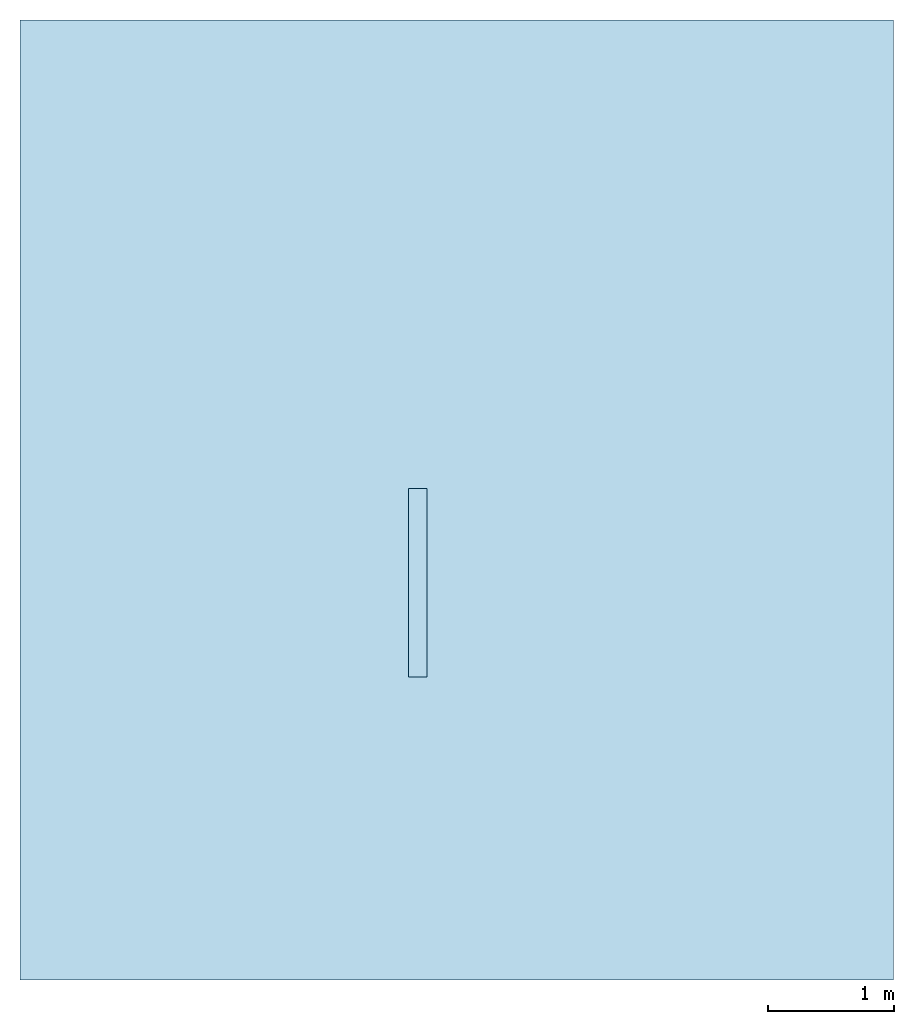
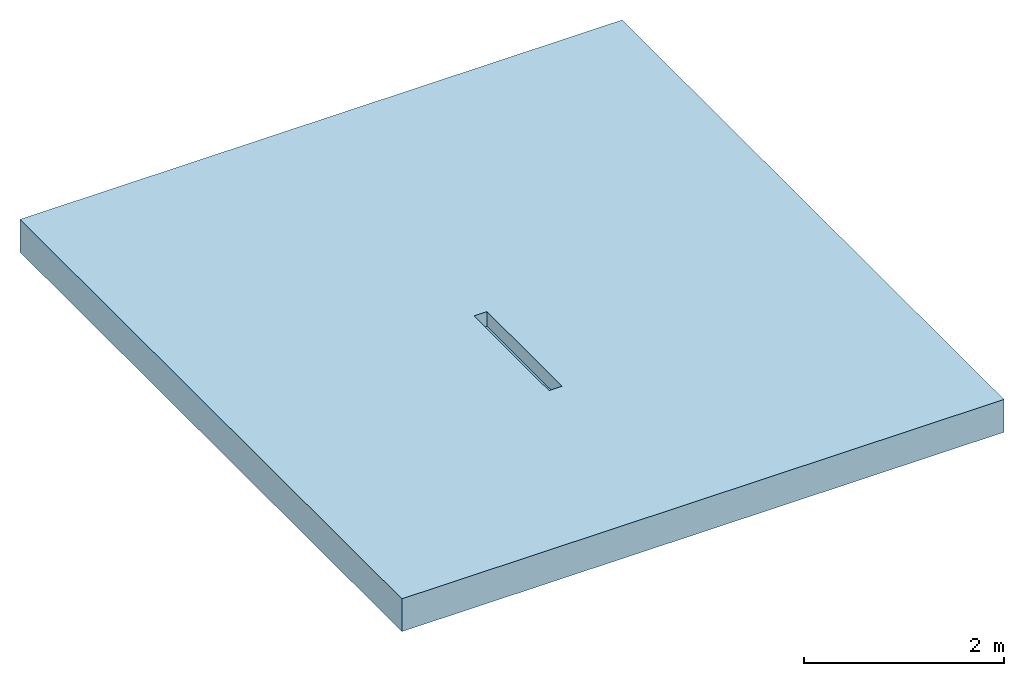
# One storey: 1 slab, 2 openings.
"""IFC2X3 building model written with IfcOpenShell, lengths in millimetres."""

from ifc_helpers import new_model, entity, si_unit, converted_unit, direction, frame, frame_2d, origin, origin_2d_with_axis, place, context, subcontext, project, spatial, rectangle, circle, extrude, material, layer, layer_set, layer_usage, element, save


model = new_model("IFC2X3")

# Units and contexts
model_context = context("Model", 3, precision=1e-06, world=origin(), true_north=direction((2.0, 6.12303176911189e-17, 1.0)))
context_of_model = context(None, 3, precision=1e-06, world=origin(), true_north=direction((2.0, 6.12303176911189e-17, 1.0)))
body_context = subcontext(model_context, "Body", "Model", "MODEL_VIEW")
ifc_project = project(units=[si_unit("LENGTHUNIT", "METRE", prefix="MILLI"), si_unit("AREAUNIT", "SQUARE_METRE", prefix="MILLI"), si_unit("VOLUMEUNIT", "CUBIC_METRE", prefix="MILLI"), converted_unit("PLANEANGLEUNIT", "DEGREE", entity("IfcRatioMeasure", 0.0174532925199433), si_unit("PLANEANGLEUNIT", "RADIAN"), dimensions=[0, 0, 0, 0, 0, 0, 0]), si_unit("TIMEUNIT", "SECOND")], contexts=[model_context, context_of_model])

# Site, building, storey
site_placement = place(None, origin())
site = spatial("IfcSite", under=ifc_project, at=site_placement, Name="Default", CompositionType="ELEMENT")
building_placement = place(site_placement, origin())
building = spatial("IfcBuilding", under=site, at=building_placement, CompositionType="ELEMENT")
storey_placement = place(building_placement, origin())
storey = spatial("IfcBuildingStorey", under=building, at=storey_placement, Name="Level 1", CompositionType="ELEMENT", Elevation=0.0)

# Slab, openings
ifc_material = material(Name="Default Floor")
ifc_layer = layer(ifc_material, 400.0)
ifc_layer_set = layer_set([ifc_layer], Name="Floor:Generic Floor - 400mm")
ifc_layer_usage = layer_usage(ifc_layer_set, "AXIS3", "POSITIVE", 0.0)
slab_placement = place(storey_placement, frame((-7426.51252910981, -9304.1683846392, -400.0)))
slab = element("IfcSlab", 1, at=slab_placement, inside=storey, material=ifc_layer_usage, Name="Floor:Generic Floor - 400mm", ObjectType="Floor:Generic Floor - 400mm", PredefinedType="FLOOR", context=body_context, shape_type="SweptSolid", body=[
    extrude(rectangle(XDim=7632.29114211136, YDim=6946.28644627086, at=frame_2d((0.0, 0.0), x_axis=(0.0, -1.0))), frame((3473.14322313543, 3816.14557105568, 400.0), z_axis=(0.0, 0.0, -1.0), x_axis=(-1.0, 0.0, 0.0)), (0.0, 0.0, 1.0), 400.0),
])
opening_1_placement = place(slab_placement, origin())
element("IfcOpeningElement", 2, at=opening_1_placement, cuts=slab, ObjectType="Recess", context=body_context, shape_type="SweptSolid", body=[
    extrude(circle(Radius=55.0000000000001, at=origin_2d_with_axis()), frame((3162.3019651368, 2457.6181649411, -5475.0), z_axis=(0.0, 1.0, 0.0), x_axis=(1.0, 0.0, 0.0)), (0.0, 0.0, 1.0), 49.9999999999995),
])
opening_2_placement = place(slab_placement, origin())
element("IfcOpeningElement", 3, at=opening_2_placement, cuts=slab, ObjectType="Recess", context=body_context, shape_type="SweptSolid", body=[
    extrude(rectangle(XDim=1500.0, YDim=150.000000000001, at=origin_2d_with_axis()), frame((3162.30196513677, 3157.61816494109, 220.0), z_axis=(0.0, 0.0, 1.0), x_axis=(0.0, -1.0, 0.0)), (0.0, 0.0, 1.0), 180.0),
])

save(model, "model.ifc")
